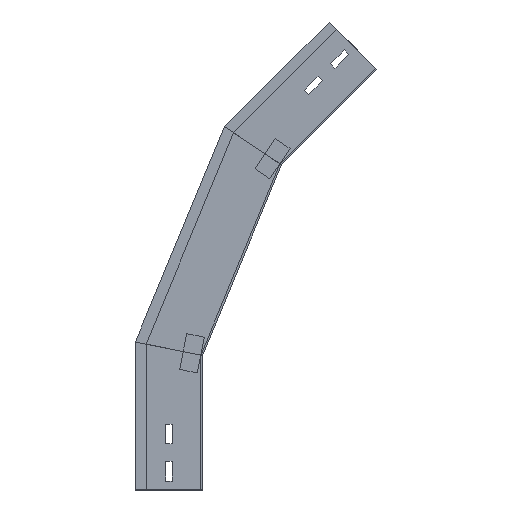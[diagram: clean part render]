
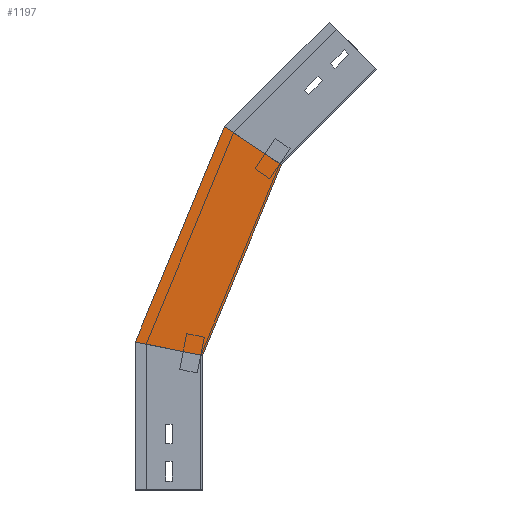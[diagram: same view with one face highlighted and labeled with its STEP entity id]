
A CAD part, left-side view. The second image highlights one B-rep face of the part: STEP entity #1197.
In plain terms, the highlighted planar face has unit normal (-1, 0, 0) as drawn and (1, 0, 0) by its records, which use the part's own axes.
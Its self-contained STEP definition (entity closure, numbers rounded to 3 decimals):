
#118 = LINE ( 'NONE', #813, #304 ) ;
#138 = VECTOR ( 'NONE', #1231, 1000. ) ;
#211 = ORIENTED_EDGE ( 'NONE', *, *, #1302, .T. ) ;
#302 = EDGE_CURVE ( 'NONE', #448, #891, #612, .T. ) ;
#304 = VECTOR ( 'NONE', #688, 1000. ) ;
#308 = LINE ( 'NONE', #876, #138 ) ;
#321 = CARTESIAN_POINT ( 'NONE',  ( 0., -88.017, 362.492 ) ) ;
#326 = CARTESIAN_POINT ( 'NONE',  ( 0., 75., 164.918 ) ) ;
#333 = ORIENTED_EDGE ( 'NONE', *, *, #1186, .F. ) ;
#448 = VERTEX_POINT ( 'NONE', #326 ) ;
#492 = CARTESIAN_POINT ( 'NONE',  ( 0., 6.318, 134.746 ) ) ;
#498 = DIRECTION ( 'NONE',  ( 0., -0.383, 0.924 ) ) ;
#563 = ORIENTED_EDGE ( 'NONE', *, *, #302, .F. ) ;
#601 = PLANE ( 'NONE',  #1063 ) ;
#608 = LINE ( 'NONE', #966, #1200 ) ;
#612 = LINE ( 'NONE', #747, #1294 ) ;
#614 = EDGE_LOOP ( 'NONE', ( #1430, #211, #333, #563 ) ) ;
#637 = FACE_OUTER_BOUND ( 'NONE', #614, .T. ) ;
#688 = DIRECTION ( 'NONE',  ( 0., -0.383, 0.924 ) ) ;
#747 = CARTESIAN_POINT ( 'NONE',  ( 0., -28.701, 144.291 ) ) ;
#813 = CARTESIAN_POINT ( 'NONE',  ( 0., 75.609, 163.448 ) ) ;
#843 = VERTEX_POINT ( 'NONE', #321 ) ;
#876 = CARTESIAN_POINT ( 'NONE',  ( 0., -128.004, 335.774 ) ) ;
#891 = VERTEX_POINT ( 'NONE', #1370 ) ;
#938 = CARTESIAN_POINT ( 'NONE',  ( 0., -24.435, 404.976 ) ) ;
#966 = CARTESIAN_POINT ( 'NONE',  ( 0., 6.318, 134.746 ) ) ;
#990 = EDGE_CURVE ( 'NONE', #448, #1428, #118, .T. ) ;
#1063 = AXIS2_PLACEMENT_3D ( 'NONE', #492, #1065, #1096 ) ;
#1065 = DIRECTION ( 'NONE',  ( 1., 0., 0. ) ) ;
#1096 = DIRECTION ( 'NONE',  ( 0., 0., -1. ) ) ;
#1186 = EDGE_CURVE ( 'NONE', #891, #843, #608, .T. ) ;
#1197 = ADVANCED_FACE ( 'NONE', ( #637 ), #601, .T. ) ;
#1200 = VECTOR ( 'NONE', #498, 1000. ) ;
#1212 = DIRECTION ( 'NONE',  ( 0., -0.981, -0.195 ) ) ;
#1231 = DIRECTION ( 'NONE',  ( 0., -0.831, -0.556 ) ) ;
#1294 = VECTOR ( 'NONE', #1212, 1000. ) ;
#1302 = EDGE_CURVE ( 'NONE', #1428, #843, #308, .T. ) ;
#1370 = CARTESIAN_POINT ( 'NONE',  ( 0., 0., 150. ) ) ;
#1428 = VERTEX_POINT ( 'NONE', #938 ) ;
#1430 = ORIENTED_EDGE ( 'NONE', *, *, #990, .T. ) ;
